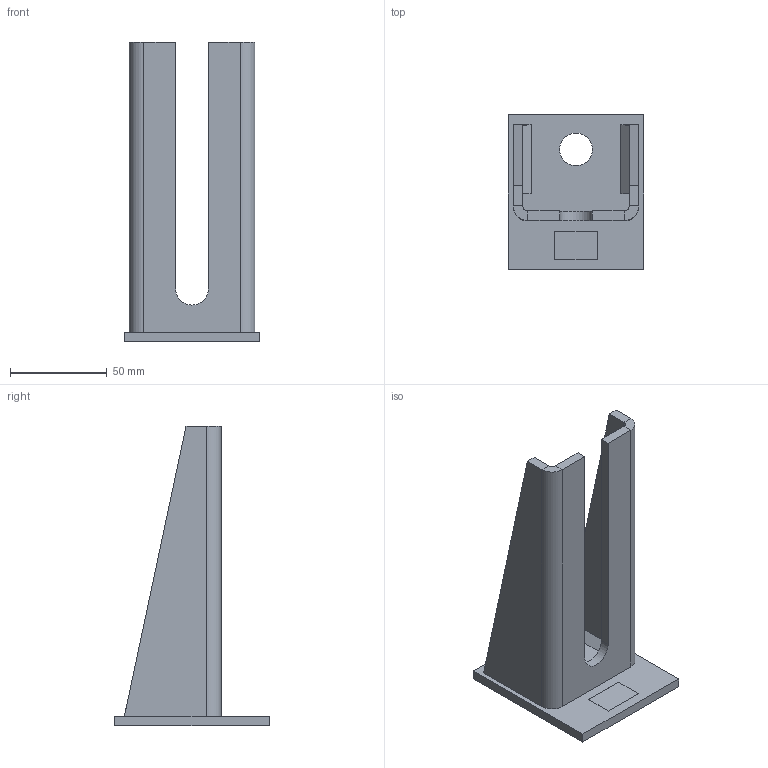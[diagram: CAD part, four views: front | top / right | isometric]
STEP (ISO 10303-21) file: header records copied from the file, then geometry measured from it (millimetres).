
FILE_DESCRIPTION(/* description */ ('Doppelkonsole Nr.1+2'),/* implementation_level */ '2;1');
FILE_NAME(/* name */ 'Q:\sge-ma\Produktmanagement-STB\STB\Workspace\stp\010335410.stp',/* time_stamp */ '2015-03-26T09:56:35+01:00',/* author */ ('avschreier'),/* organization */ (''),/* preprocessor_version */ 'ST-DEVELOPER v15.6',/* originating_system */ 'Autodesk Inventor 2015',/* authorisation */ '');
FILE_SCHEMA (('CONFIG_CONTROL_DESIGN'));
Length unit declared in the file: millimetre
Products named in the file (4): 010335410_Schweißnähte; 337000227; 337000244; 010335410
Bounding box: 70 x 80 x 155 mm (x, y, z)
Volume: 105214.4 mm3; surface area: 48711 mm2
Topology: 4 solids, 4 shells, 48 faces, 101 edges, 62 vertices
Faces by surface type: plane 42, cylinder 6
Full cylindrical faces by diameter (mm): 17 x1
Entity records: 1343 total; most frequent: DIRECTION 222, CARTESIAN_POINT 217, ORIENTED_EDGE 200, EDGE_CURVE 100, LINE 88, VECTOR 88, AXIS2_PLACEMENT_3D 67, VERTEX_POINT 62
